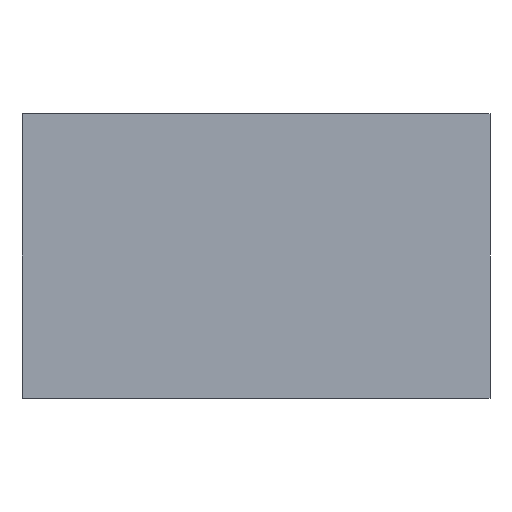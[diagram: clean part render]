
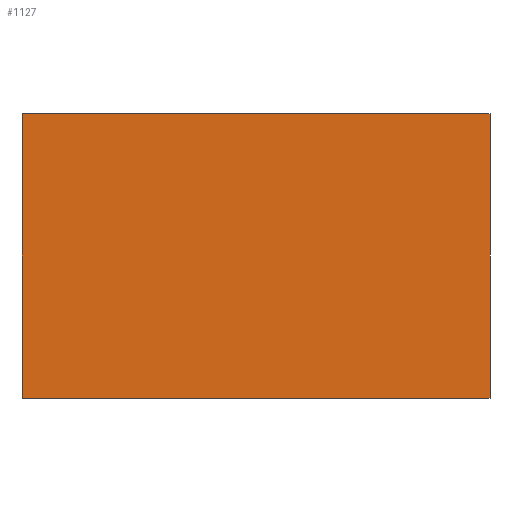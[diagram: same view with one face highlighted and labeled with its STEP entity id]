
A CAD part, front view. The second image highlights one B-rep face of the part: STEP entity #1127.
In plain terms, the highlighted planar face has unit normal (0, -1, 0).
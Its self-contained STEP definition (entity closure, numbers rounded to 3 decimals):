
#39 = CARTESIAN_POINT ( 'NONE',  ( 115., -35., -35. ) ) ;
#152 = VECTOR ( 'NONE', #1399, 1000. ) ;
#204 = CARTESIAN_POINT ( 'NONE',  ( 115., -35., -35. ) ) ;
#238 = EDGE_LOOP ( 'NONE', ( #1419, #514, #666, #1175 ) ) ;
#268 = DIRECTION ( 'NONE',  ( 0., 0., -1. ) ) ;
#274 = CARTESIAN_POINT ( 'NONE',  ( 115., -35., 35. ) ) ;
#330 = VERTEX_POINT ( 'NONE', #696 ) ;
#394 = DIRECTION ( 'NONE',  ( 0., 1., 0. ) ) ;
#401 = EDGE_CURVE ( 'NONE', #958, #330, #1101, .T. ) ;
#463 = LINE ( 'NONE', #204, #152 ) ;
#501 = EDGE_CURVE ( 'NONE', #870, #958, #682, .T. ) ;
#514 = ORIENTED_EDGE ( 'NONE', *, *, #589, .F. ) ;
#589 = EDGE_CURVE ( 'NONE', #1195, #330, #1121, .T. ) ;
#600 = FACE_OUTER_BOUND ( 'NONE', #238, .T. ) ;
#624 = DIRECTION ( 'NONE',  ( -1., 0., 0. ) ) ;
#664 = VECTOR ( 'NONE', #624, 1000. ) ;
#666 = ORIENTED_EDGE ( 'NONE', *, *, #1479, .F. ) ;
#682 = LINE ( 'NONE', #1058, #1554 ) ;
#696 = CARTESIAN_POINT ( 'NONE',  ( 0., -35., -35. ) ) ;
#868 = DIRECTION ( 'NONE',  ( 0., 0., 1. ) ) ;
#870 = VERTEX_POINT ( 'NONE', #274 ) ;
#901 = CARTESIAN_POINT ( 'NONE',  ( 115., -35., -35. ) ) ;
#908 = CARTESIAN_POINT ( 'NONE',  ( 0., -35., 35. ) ) ;
#958 = VERTEX_POINT ( 'NONE', #908 ) ;
#1058 = CARTESIAN_POINT ( 'NONE',  ( 115., -35., 35. ) ) ;
#1065 = DIRECTION ( 'NONE',  ( -1., 0., 0. ) ) ;
#1101 = LINE ( 'NONE', #1437, #1524 ) ;
#1121 = LINE ( 'NONE', #901, #664 ) ;
#1127 = ADVANCED_FACE ( 'NONE', ( #600 ), #1323, .F. ) ;
#1175 = ORIENTED_EDGE ( 'NONE', *, *, #501, .T. ) ;
#1195 = VERTEX_POINT ( 'NONE', #39 ) ;
#1240 = AXIS2_PLACEMENT_3D ( 'NONE', #1329, #394, #868 ) ;
#1323 = PLANE ( 'NONE',  #1240 ) ;
#1329 = CARTESIAN_POINT ( 'NONE',  ( 115., -35., -35. ) ) ;
#1399 = DIRECTION ( 'NONE',  ( 0., 0., -1. ) ) ;
#1419 = ORIENTED_EDGE ( 'NONE', *, *, #401, .T. ) ;
#1437 = CARTESIAN_POINT ( 'NONE',  ( 0., -35., -35. ) ) ;
#1479 = EDGE_CURVE ( 'NONE', #870, #1195, #463, .T. ) ;
#1524 = VECTOR ( 'NONE', #268, 1000. ) ;
#1554 = VECTOR ( 'NONE', #1065, 1000. ) ;
